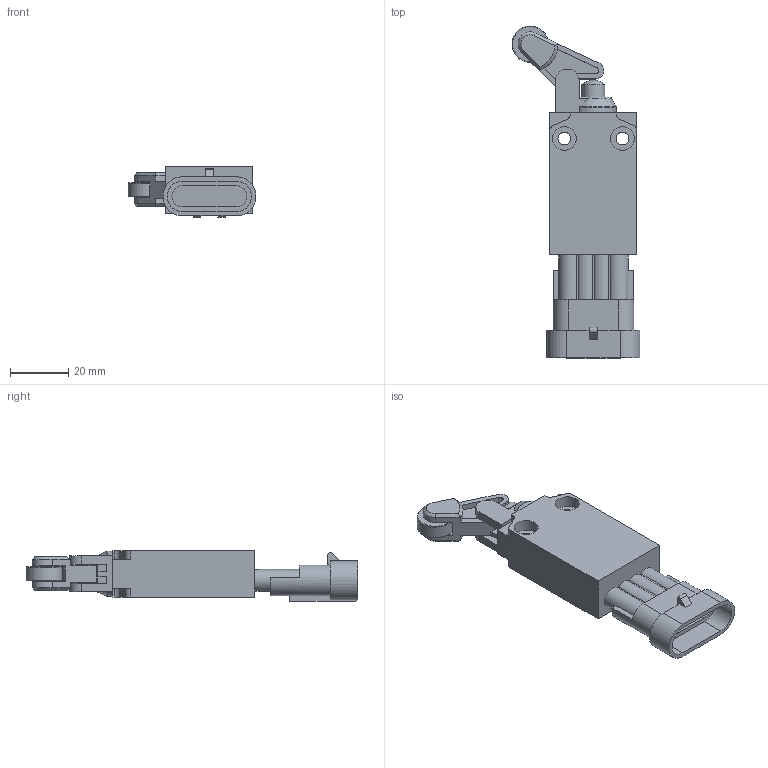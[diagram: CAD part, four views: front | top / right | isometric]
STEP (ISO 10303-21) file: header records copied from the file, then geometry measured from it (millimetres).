
FILE_DESCRIPTION(/* description */ (''),/* implementation_level */ '2;1');
FILE_NAME(/* name */ 'C:\Users\servizio.tecnico\Desktop\CADENAS\3D\EP1_STP\STP_EP1_G32A.stp',/* time_stamp */ '2017-09-04T09:57:17+02:00',/* author */ ('servizio.tecnico'),/* organization */ (''),/* preprocessor_version */ 'ST-DEVELOPER v16.1',/* originating_system */ 'Autodesk Inventor 2016',/* authorisation */ '');
FILE_SCHEMA (('AUTOMOTIVE_DESIGN { 1 0 10303 214 3 1 1 }'));
Length unit declared in the file: millimetre
Products named in the file (3): Product; EP1G32-A; BASE ASSI 
Assembly tree (2 placements, depth 3):
  BASE ASSI 
    EP1G32-A
      Product
Bounding box: 43.98 x 114.23 x 17.5 mm (x, y, z)
Volume: 32228.4 mm3; surface area: 14450.7 mm2
Topology: 5 solids, 5 shells, 196 faces, 510 edges, 335 vertices
Faces by surface type: plane 124, cylinder 62, cone 5, torus 4, sphere 1
Full cylindrical faces by diameter (mm): 4.4 x2, 7 x1, 7.8 x2, 7.95 x1, 8.05 x1, 8.2 x4, 12.5 x1
Entity records: 6183 total; most frequent: CARTESIAN_POINT 1075, DIRECTION 1032, ORIENTED_EDGE 978, EDGE_CURVE 489, AXIS2_PLACEMENT_3D 350, LINE 332, VECTOR 332, VERTEX_POINT 330
